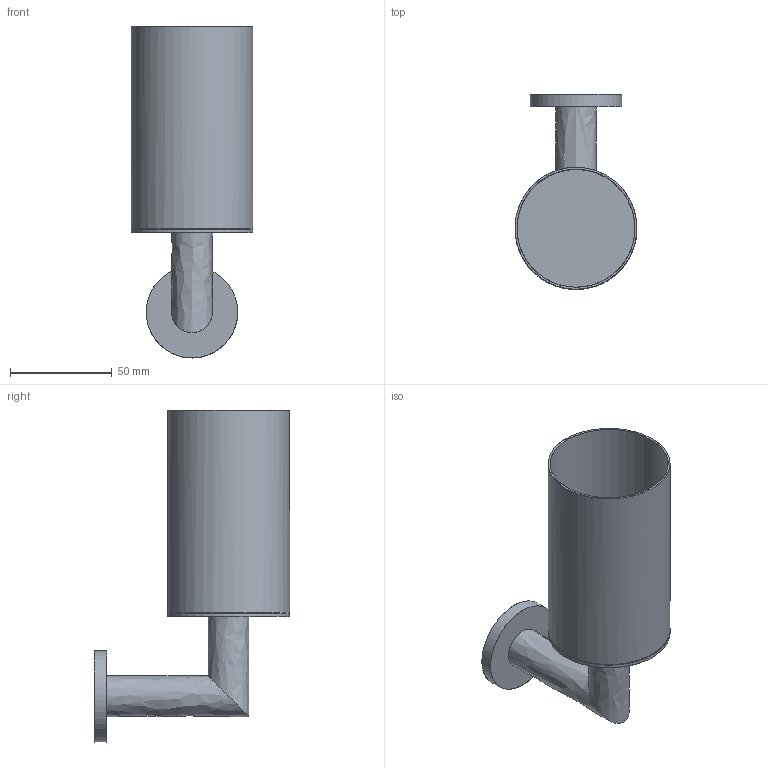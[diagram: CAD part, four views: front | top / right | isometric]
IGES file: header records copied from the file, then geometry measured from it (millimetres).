
Global section: file name: /Users/f/Desktop/I'/AE144.igs; native system: Rhinoceros ( Jul 22 2010 ); preprocessor: Trout Lake IGES 012 Jul 22 2010; date: 100727.144620; units: millimetre
Bounding box: 60 x 96 x 163.3 mm (x, y, z)
Surface area: 57812.1 mm2 (no closed solid volume)
Topology: 0 solids, 0 shells, 17 faces, 315 edges, 308 vertices
Faces by surface type: bspline 17
